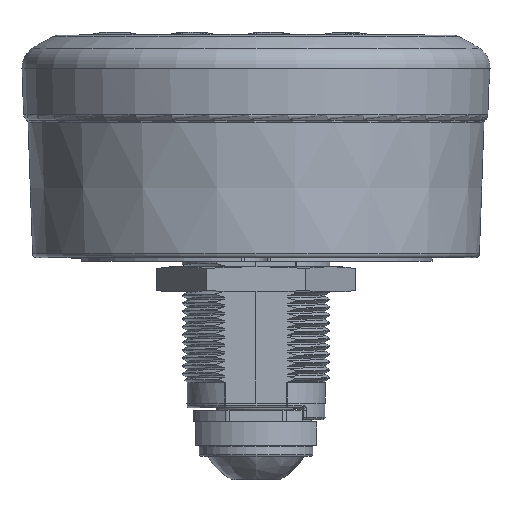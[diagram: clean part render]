
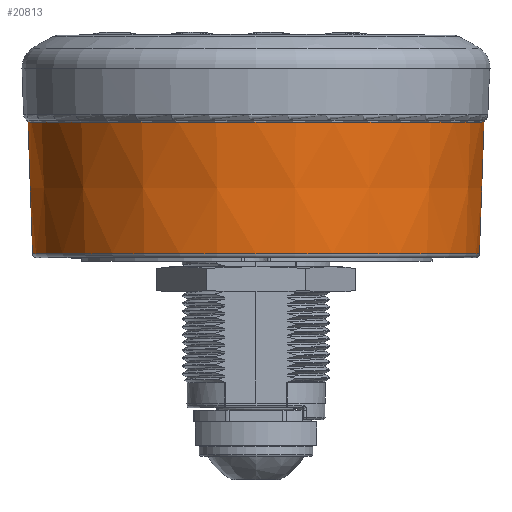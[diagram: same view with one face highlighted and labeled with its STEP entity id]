
A CAD part, left-side view. The second image highlights one B-rep face of the part: STEP entity #20813.
In plain terms, the highlighted conical face has half-angle 2 degrees and reference radius 28.494 mm.
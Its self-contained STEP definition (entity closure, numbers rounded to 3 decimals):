
#14276=FACE_BOUND('',#25624,.T.);
#14277=FACE_BOUND('',#25625,.T.);
#14551=CONICAL_SURFACE('',#49323,28.494,2.);
#19040=CIRCLE('',#49320,29.137);
#19041=CIRCLE('',#49322,28.549);
#20813=ADVANCED_FACE('',(#14276,#14277),#14551,.T.);
#25624=EDGE_LOOP('',(#31696));
#25625=EDGE_LOOP('',(#31697));
#31696=ORIENTED_EDGE('',*,*,#43040,.T.);
#31697=ORIENTED_EDGE('',*,*,#43039,.T.);
#38934=VERTEX_POINT('',#83299);
#38935=VERTEX_POINT('',#83302);
#43039=EDGE_CURVE('',#38934,#38934,#19040,.T.);
#43040=EDGE_CURVE('',#38935,#38935,#19041,.T.);
#49320=AXIS2_PLACEMENT_3D('',#83298,#54672,#54673);
#49322=AXIS2_PLACEMENT_3D('',#83301,#54676,#54677);
#49323=AXIS2_PLACEMENT_3D('',#83303,#54678,#54679);
#54672=DIRECTION('',(0.,0.,-1.));
#54673=DIRECTION('',(0.,-1.,0.));
#54676=DIRECTION('',(0.,0.,1.));
#54677=DIRECTION('',(0.,1.,0.));
#54678=DIRECTION('',(0.,0.,1.));
#54679=DIRECTION('',(0.,1.,0.));
#83298=CARTESIAN_POINT('',(0.,0.,8.51));
#83299=CARTESIAN_POINT('',(0.,-29.137,8.51));
#83301=CARTESIAN_POINT('',(0.,0.,-8.317));
#83302=CARTESIAN_POINT('',(0.,28.549,-8.317));
#83303=CARTESIAN_POINT('',(0.,0.,-9.906));
